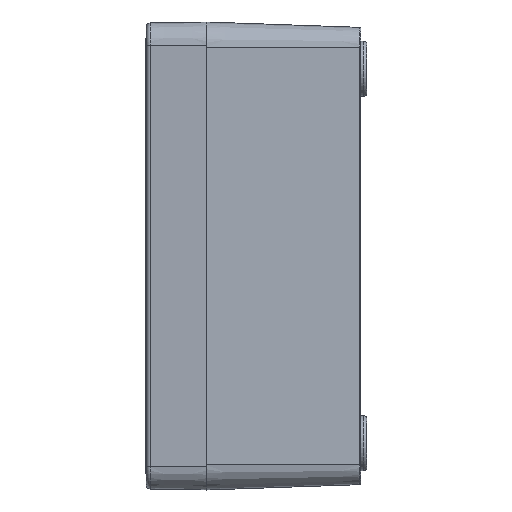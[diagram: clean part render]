
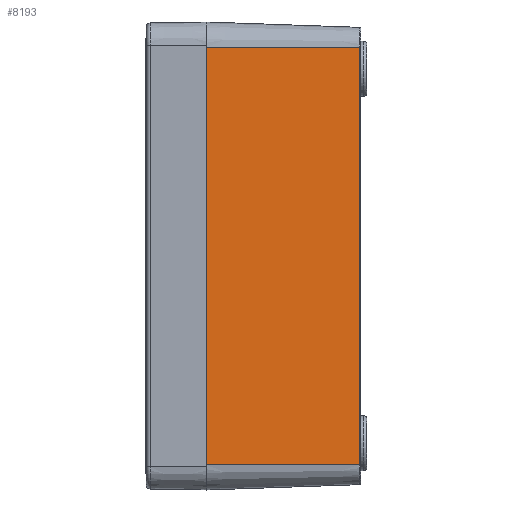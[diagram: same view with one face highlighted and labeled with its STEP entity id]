
A CAD part, left-side view. The second image highlights one B-rep face of the part: STEP entity #8193.
In plain terms, the highlighted planar face has unit normal (-0.999, -0.035, 0).
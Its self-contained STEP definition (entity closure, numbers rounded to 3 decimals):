
#105 = DIRECTION ( 'NONE',  ( -0.035, 0.999, 0. ) ) ;
#476 = PLANE ( 'NONE',  #14859 ) ;
#713 = FACE_OUTER_BOUND ( 'NONE', #3112, .T. ) ;
#1092 = ORIENTED_EDGE ( 'NONE', *, *, #14870, .F. ) ;
#1117 = LINE ( 'NONE', #8724, #4978 ) ;
#1359 = CARTESIAN_POINT ( 'NONE',  ( -83.725, -39.367, 53.7 ) ) ;
#2339 = ORIENTED_EDGE ( 'NONE', *, *, #3107, .F. ) ;
#2556 = LINE ( 'NONE', #5029, #13851 ) ;
#3049 = ORIENTED_EDGE ( 'NONE', *, *, #4475, .T. ) ;
#3107 = EDGE_CURVE ( 'NONE', #6916, #13632, #1117, .T. ) ;
#3112 = EDGE_LOOP ( 'NONE', ( #1092, #9694, #3049, #2339 ) ) ;
#4004 = CARTESIAN_POINT ( 'NONE',  ( -85.1, 0., 53.7 ) ) ;
#4440 = DIRECTION ( 'NONE',  ( -0.999, -0.035, 0. ) ) ;
#4475 = EDGE_CURVE ( 'NONE', #9406, #13632, #10798, .T. ) ;
#4605 = CARTESIAN_POINT ( 'NONE',  ( -85.1, 0., 53.7 ) ) ;
#4675 = DIRECTION ( 'NONE',  ( 0., 0., 1. ) ) ;
#4978 = VECTOR ( 'NONE', #4675, 1000. ) ;
#5029 = CARTESIAN_POINT ( 'NONE',  ( -85.1, 0., -53.7 ) ) ;
#6916 = VERTEX_POINT ( 'NONE', #10402 ) ;
#6932 = VECTOR ( 'NONE', #10238, 1000. ) ;
#8193 = ADVANCED_FACE ( 'NONE', ( #713 ), #476, .T. ) ;
#8724 = CARTESIAN_POINT ( 'NONE',  ( -85.1, 0., 53.7 ) ) ;
#9192 = CARTESIAN_POINT ( 'NONE',  ( -85.1, 0., 53.7 ) ) ;
#9406 = VERTEX_POINT ( 'NONE', #13255 ) ;
#9694 = ORIENTED_EDGE ( 'NONE', *, *, #10164, .T. ) ;
#10164 = EDGE_CURVE ( 'NONE', #14057, #9406, #14402, .T. ) ;
#10238 = DIRECTION ( 'NONE',  ( 0., 0., 1. ) ) ;
#10402 = CARTESIAN_POINT ( 'NONE',  ( -85.1, 0., -53.7 ) ) ;
#10798 = LINE ( 'NONE', #9192, #10984 ) ;
#10984 = VECTOR ( 'NONE', #15971, 1000. ) ;
#12956 = CARTESIAN_POINT ( 'NONE',  ( -83.725, -39.367, -53.7 ) ) ;
#13255 = CARTESIAN_POINT ( 'NONE',  ( -83.725, -39.367, 53.7 ) ) ;
#13632 = VERTEX_POINT ( 'NONE', #4004 ) ;
#13851 = VECTOR ( 'NONE', #105, 1000. ) ;
#14057 = VERTEX_POINT ( 'NONE', #12956 ) ;
#14402 = LINE ( 'NONE', #1359, #6932 ) ;
#14610 = DIRECTION ( 'NONE',  ( 0.035, -0.999, 0. ) ) ;
#14859 = AXIS2_PLACEMENT_3D ( 'NONE', #4605, #4440, #14610 ) ;
#14870 = EDGE_CURVE ( 'NONE', #14057, #6916, #2556, .T. ) ;
#15971 = DIRECTION ( 'NONE',  ( -0.035, 0.999, 0. ) ) ;
